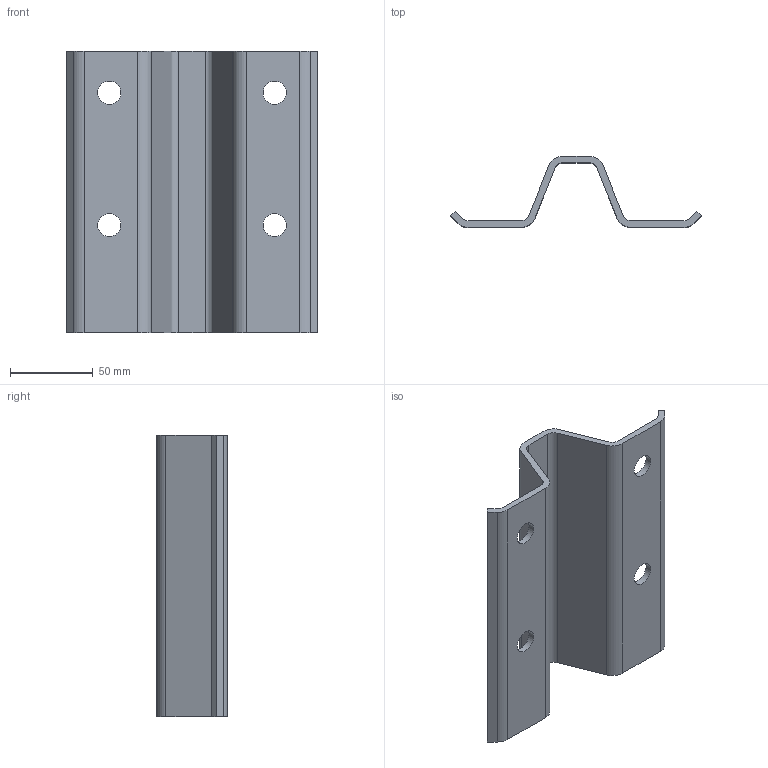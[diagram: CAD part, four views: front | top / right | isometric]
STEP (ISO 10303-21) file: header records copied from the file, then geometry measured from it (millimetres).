
FILE_DESCRIPTION(/* description */ (''),/* implementation_level */ '2;1');
FILE_NAME(/* name */ 'ZC200.stp',/* time_stamp */ '2023-07-03T11:16:54+02:00',/* author */ ('woriedl'),/* organization */ (''),/* preprocessor_version */ 'ST-DEVELOPER v19.2',/* originating_system */ 'AutoCAD Mechanical',/* authorisation */ '');
FILE_SCHEMA (('AUTOMOTIVE_DESIGN { 1 0 10303 214 3 1 1 }'));
Length unit declared in the file: centimetre
Products named in the file (1): Product
Bounding box: 151.72 x 43 x 170 mm (x, y, z)
Volume: 134777.4 mm3; surface area: 71067 mm2
Topology: 1 solids, 1 shells, 34 faces, 96 edges, 64 vertices
Faces by surface type: plane 18, cylinder 16
Full cylindrical faces by diameter (mm): 14 x4
Entity records: 1151 total; most frequent: DIRECTION 198, CARTESIAN_POINT 195, ORIENTED_EDGE 192, EDGE_CURVE 96, AXIS2_PLACEMENT_3D 67, LINE 64, VECTOR 64, VERTEX_POINT 64
